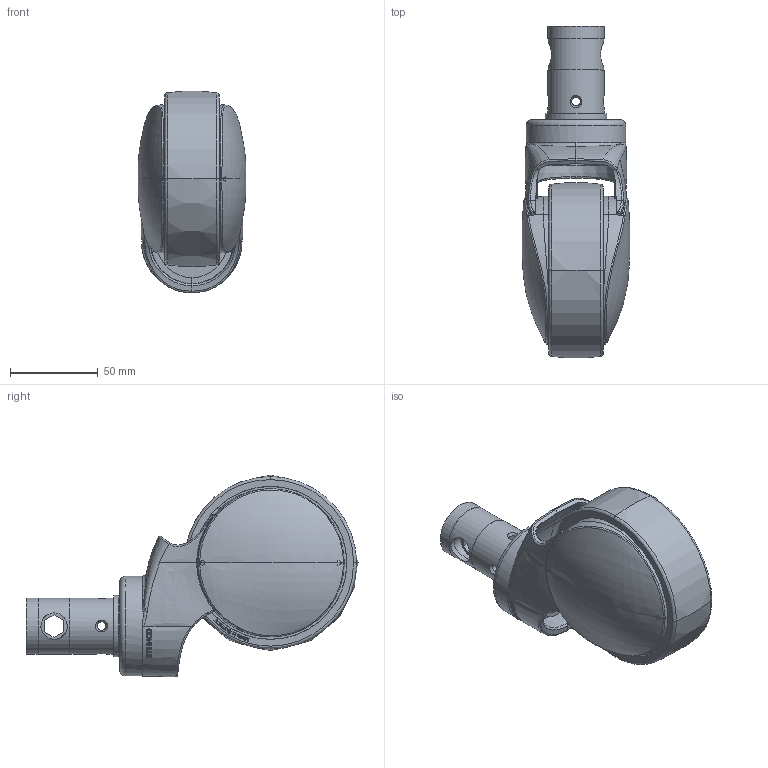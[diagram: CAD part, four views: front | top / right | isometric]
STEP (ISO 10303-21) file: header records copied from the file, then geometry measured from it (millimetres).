
FILE_DESCRIPTION(/* description */ (''),/* implementation_level */ '2;1');
FILE_NAME(/* name */ 'D:\Temp\TP-STEP_files\_inventor_\new_imports\2.XTA0.PTA0.prt.ipt.step',/* time_stamp */ '2020-11-27T10:27:07+01:00',/* author */ ('alfredS'),/* organization */ (''),/* preprocessor_version */ 'ST-DEVELOPER v18.1',/* originating_system */ 'Autodesk Inventor 2021',/* authorisation */ '');
FILE_SCHEMA (('AUTOMOTIVE_DESIGN { 1 0 10303 214 3 1 1 }'));
Products named in the file (1): 2.XTA0.PTA0.prt
Bounding box: 61.3 x 188.88 x 114.73 mm (x, y, z)
Volume: 472090.7 mm3; surface area: 57561.6 mm2
Topology: 1 solids, 1 shells, 673 faces, 1855 edges, 1222 vertices
Faces by surface type: bspline 373, plane 258, cylinder 28, cone 12, torus 2
Full cylindrical faces by diameter (mm): 2.5 x2, 5 x4, 15 x2, 19 x1, 26.5 x1, 31.8 x1, 31.95 x2, 35 x1, 40.3 x1, 56.6 x1
Entity records: 91288 total; most frequent: CARTESIAN_POINT 75980, ORIENTED_EDGE 3678, DIRECTION 1864, EDGE_CURVE 1839, VERTEX_POINT 1222, B_SPLINE_CURVE_WITH_KNOTS 801, LINE 798, VECTOR 798
